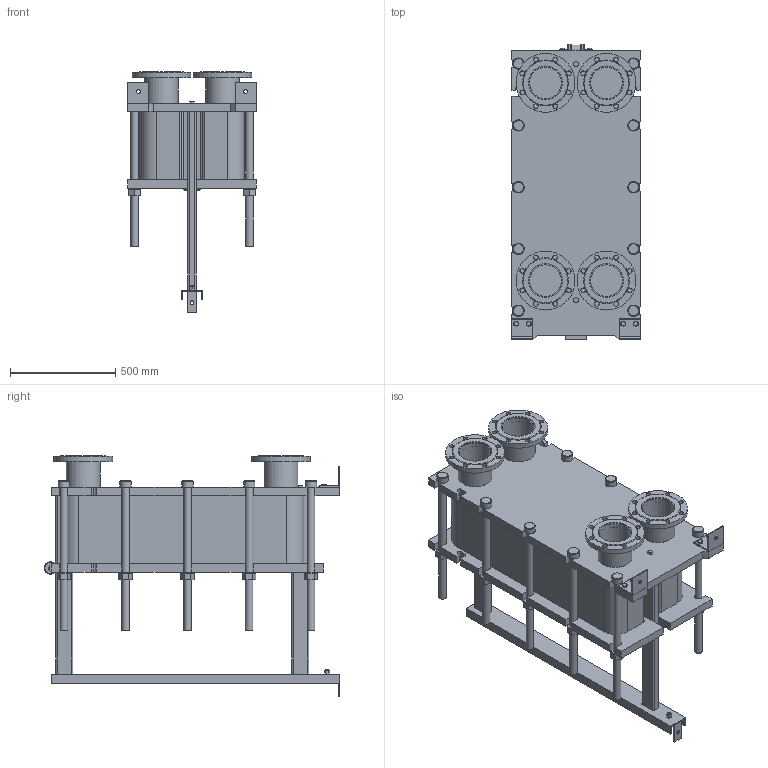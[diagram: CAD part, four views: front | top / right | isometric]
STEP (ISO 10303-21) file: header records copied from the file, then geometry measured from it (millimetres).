
FILE_DESCRIPTION(/* description */ (''),/* implementation_level */ '2;1');
FILE_NAME(/* name */ 'C:\Users\zhuro\Desktop\ENCO\TO\ЭН-041\ЭН-0,5-041-94-1.stp',/* time_stamp */ '2022-06-06T10:57:33+03:00',/* author */ ('zhuro'),/* organization */ (''),/* preprocessor_version */ 'ST-DEVELOPER v18.1',/* originating_system */ 'Autodesk Inventor 2022',/* authorisation */ '');
FILE_SCHEMA (('AUTOMOTIVE_DESIGN { 1 0 10303 214 3 1 1 }'));
Length unit declared in the file: millimetre
Products named in the file (1): ЭН-0,5-041-94-1
Bounding box: 610 x 1406.5 x 1145 mm (x, y, z)
Volume: 262449926.1 mm3; surface area: 8892216 mm2
Topology: 52 solids, 52 shells, 711 faces, 1696 edges, 1094 vertices
Faces by surface type: plane 487, cylinder 177, cone 41, torus 6
Full cylindrical faces by diameter (mm): 8 x4, 10 x2, 16 x8, 18 x3, 22 x32, 36 x24, 50 x1, 54 x10, 60 x12, 151 x4, 161 x8, 280 x4
Entity records: 22667 total; most frequent: CARTESIAN_POINT 5230, DIRECTION 3644, ORIENTED_EDGE 3392, EDGE_CURVE 1696, AXIS2_PLACEMENT_3D 1272, LINE 1100, VECTOR 1100, VERTEX_POINT 1094
